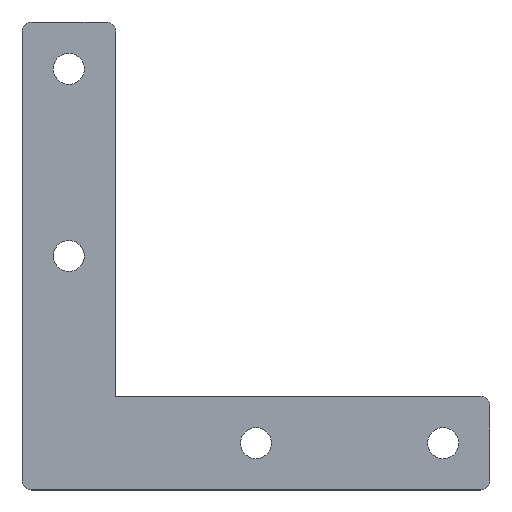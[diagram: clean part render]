
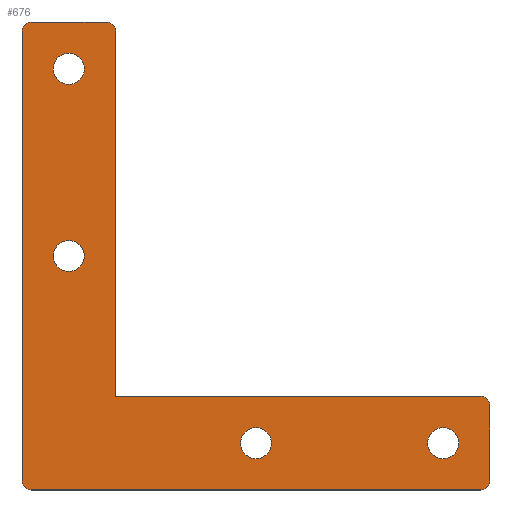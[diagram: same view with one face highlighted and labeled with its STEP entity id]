
A CAD part, top view. The second image highlights one B-rep face of the part: STEP entity #676.
In plain terms, the highlighted planar face has unit normal (0, 0, 1).
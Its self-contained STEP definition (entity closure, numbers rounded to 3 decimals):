
#105=CARTESIAN_POINT('',(93.323,10.0,4.0));
#106=VERTEX_POINT('',#105);
#107=CARTESIAN_POINT('',(90.0,10.0,4.));
#108=DIRECTION('',(0.0,0.0,-1.0));
#109=DIRECTION('',(1.0,0.0,0.0));
#110=AXIS2_PLACEMENT_3D('',#107,#108,#109);
#111=CIRCLE('',#110,3.324);
#112=EDGE_CURVE('',#106,#106,#111,.T.);
#154=CARTESIAN_POINT('',(53.323,10.0,4.0));
#155=VERTEX_POINT('',#154);
#156=CARTESIAN_POINT('',(50.0,10.0,4.));
#157=DIRECTION('',(0.0,0.0,-1.0));
#158=DIRECTION('',(1.0,0.0,0.0));
#159=AXIS2_PLACEMENT_3D('',#156,#157,#158);
#160=CIRCLE('',#159,3.324);
#161=EDGE_CURVE('',#155,#155,#160,.T.);
#203=CARTESIAN_POINT('',(13.323,50.0,4.0));
#204=VERTEX_POINT('',#203);
#205=CARTESIAN_POINT('',(10.,50.0,4.));
#206=DIRECTION('',(0.0,0.0,-1.0));
#207=DIRECTION('',(1.0,0.0,0.0));
#208=AXIS2_PLACEMENT_3D('',#205,#206,#207);
#209=CIRCLE('',#208,3.324);
#210=EDGE_CURVE('',#204,#204,#209,.T.);
#252=CARTESIAN_POINT('',(13.323,90.0,4.0));
#253=VERTEX_POINT('',#252);
#254=CARTESIAN_POINT('',(10.,90.0,4.));
#255=DIRECTION('',(0.0,0.0,-1.0));
#256=DIRECTION('',(1.0,0.0,0.0));
#257=AXIS2_PLACEMENT_3D('',#254,#255,#256);
#258=CIRCLE('',#257,3.324);
#259=EDGE_CURVE('',#253,#253,#258,.T.);
#269=CARTESIAN_POINT('',(20.,20.,4.0));
#270=VERTEX_POINT('',#269);
#271=CARTESIAN_POINT('',(98.0,20.,4.0));
#272=VERTEX_POINT('',#271);
#273=CARTESIAN_POINT('',(20.,20.,4.0));
#274=DIRECTION('',(1.0,0.0,0.0));
#275=VECTOR('',#274,78.);
#276=LINE('',#273,#275);
#277=EDGE_CURVE('',#270,#272,#276,.T.);
#309=CARTESIAN_POINT('',(100.,18.0,4.0));
#310=VERTEX_POINT('',#309);
#311=CARTESIAN_POINT('',(98.0,18.0,4.0));
#312=DIRECTION('',(0.0,0.0,-1.0));
#313=DIRECTION('',(1.0,0.0,0.0));
#314=AXIS2_PLACEMENT_3D('',#311,#312,#313);
#315=CIRCLE('',#314,2.);
#316=EDGE_CURVE('',#272,#310,#315,.T.);
#342=CARTESIAN_POINT('',(100.,2.,4.0));
#343=VERTEX_POINT('',#342);
#344=CARTESIAN_POINT('',(100.0,18.0,4.0));
#345=DIRECTION('',(0.0,-1.0,0.0));
#346=VECTOR('',#345,16.0);
#347=LINE('',#344,#346);
#348=EDGE_CURVE('',#310,#343,#347,.T.);
#373=CARTESIAN_POINT('',(98.0,0.0,4.0));
#374=VERTEX_POINT('',#373);
#375=CARTESIAN_POINT('',(98.0,2.0,4.0));
#376=DIRECTION('',(0.0,0.0,-1.0));
#377=DIRECTION('',(0.0,-1.0,0.0));
#378=AXIS2_PLACEMENT_3D('',#375,#376,#377);
#379=CIRCLE('',#378,2.);
#380=EDGE_CURVE('',#343,#374,#379,.T.);
#406=CARTESIAN_POINT('',(2.,0.0,4.0));
#407=VERTEX_POINT('',#406);
#408=CARTESIAN_POINT('',(98.,0.0,4.0));
#409=DIRECTION('',(-1.0,0.0,0.0));
#410=VECTOR('',#409,96.);
#411=LINE('',#408,#410);
#412=EDGE_CURVE('',#374,#407,#411,.T.);
#437=CARTESIAN_POINT('',(0.,2.,4.0));
#438=VERTEX_POINT('',#437);
#439=CARTESIAN_POINT('',(2.,2.0,4.0));
#440=DIRECTION('',(0.0,0.0,-1.0));
#441=DIRECTION('',(-1.0,0.0,0.0));
#442=AXIS2_PLACEMENT_3D('',#439,#440,#441);
#443=CIRCLE('',#442,2.0);
#444=EDGE_CURVE('',#407,#438,#443,.T.);
#470=CARTESIAN_POINT('',(0.,98.0,4.0));
#471=VERTEX_POINT('',#470);
#472=CARTESIAN_POINT('',(0.,2.,4.0));
#473=DIRECTION('',(0.0,1.0,0.0));
#474=VECTOR('',#473,96.);
#475=LINE('',#472,#474);
#476=EDGE_CURVE('',#438,#471,#475,.T.);
#501=CARTESIAN_POINT('',(2.,100.0,4.0));
#502=VERTEX_POINT('',#501);
#503=CARTESIAN_POINT('',(2.,98.0,4.0));
#504=DIRECTION('',(0.0,0.0,-1.0));
#505=DIRECTION('',(0.0,1.0,0.0));
#506=AXIS2_PLACEMENT_3D('',#503,#504,#505);
#507=CIRCLE('',#506,2.);
#508=EDGE_CURVE('',#471,#502,#507,.T.);
#534=CARTESIAN_POINT('',(18.,100.0,4.0));
#535=VERTEX_POINT('',#534);
#536=CARTESIAN_POINT('',(2.,100.0,4.0));
#537=DIRECTION('',(1.0,0.0,0.0));
#538=VECTOR('',#537,16.);
#539=LINE('',#536,#538);
#540=EDGE_CURVE('',#502,#535,#539,.T.);
#565=CARTESIAN_POINT('',(20.,98.0,4.0));
#566=VERTEX_POINT('',#565);
#567=CARTESIAN_POINT('',(18.,98.0,4.0));
#568=DIRECTION('',(0.0,0.0,-1.0));
#569=DIRECTION('',(1.0,0.0,0.0));
#570=AXIS2_PLACEMENT_3D('',#567,#568,#569);
#571=CIRCLE('',#570,2.);
#572=EDGE_CURVE('',#535,#566,#571,.T.);
#598=CARTESIAN_POINT('',(20.,98.0,4.0));
#599=DIRECTION('',(0.0,-1.0,0.0));
#600=VECTOR('',#599,78.0);
#601=LINE('',#598,#600);
#602=EDGE_CURVE('',#566,#270,#601,.T.);
#646=CARTESIAN_POINT('',(33.891,33.891,4.0));
#647=DIRECTION('',(0.0,0.0,1.0));
#648=DIRECTION('',(1.0,0.0,0.0));
#649=AXIS2_PLACEMENT_3D('',#646,#647,#648);
#650=PLANE('',#649);
#651=ORIENTED_EDGE('',*,*,#277,.F.);
#652=ORIENTED_EDGE('',*,*,#602,.F.);
#653=ORIENTED_EDGE('',*,*,#572,.F.);
#654=ORIENTED_EDGE('',*,*,#540,.F.);
#655=ORIENTED_EDGE('',*,*,#508,.F.);
#656=ORIENTED_EDGE('',*,*,#476,.F.);
#657=ORIENTED_EDGE('',*,*,#444,.F.);
#658=ORIENTED_EDGE('',*,*,#412,.F.);
#659=ORIENTED_EDGE('',*,*,#380,.F.);
#660=ORIENTED_EDGE('',*,*,#348,.F.);
#661=ORIENTED_EDGE('',*,*,#316,.F.);
#662=EDGE_LOOP('',(#651,#652,#653,#654,#655,#656,#657,#658,#659,#660,#661));
#663=FACE_OUTER_BOUND('',#662,.T.);
#664=ORIENTED_EDGE('',*,*,#112,.T.);
#665=EDGE_LOOP('',(#664));
#666=FACE_BOUND('',#665,.T.);
#667=ORIENTED_EDGE('',*,*,#161,.T.);
#668=EDGE_LOOP('',(#667));
#669=FACE_BOUND('',#668,.T.);
#670=ORIENTED_EDGE('',*,*,#210,.T.);
#671=EDGE_LOOP('',(#670));
#672=FACE_BOUND('',#671,.T.);
#673=ORIENTED_EDGE('',*,*,#259,.T.);
#674=EDGE_LOOP('',(#673));
#675=FACE_BOUND('',#674,.T.);
#676=ADVANCED_FACE('',(#663,#666,#669,#672,#675),#650,.T.);
